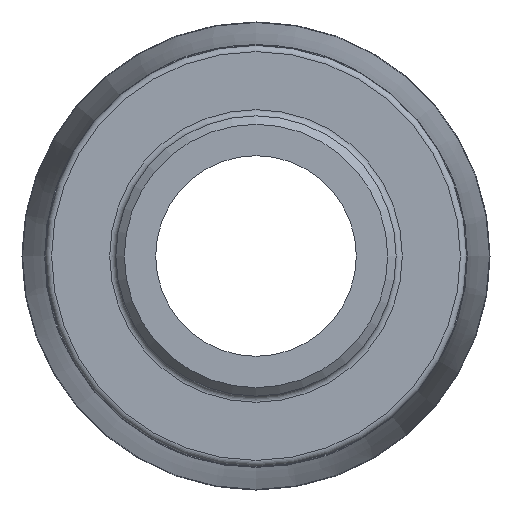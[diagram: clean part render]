
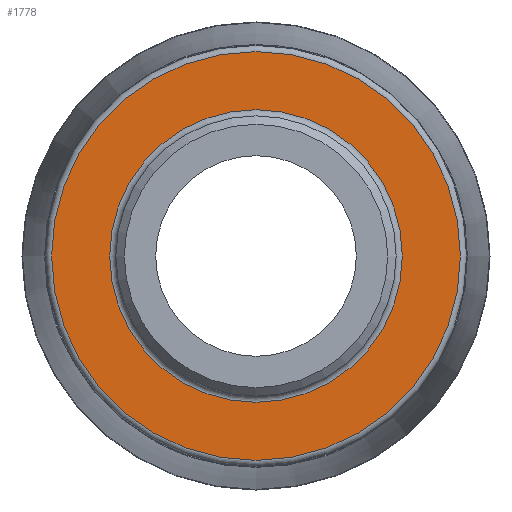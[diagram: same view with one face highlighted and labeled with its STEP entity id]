
A CAD part, left-side view. The second image highlights one B-rep face of the part: STEP entity #1778.
In plain terms, the highlighted planar face has unit normal (-1, 0, 0).
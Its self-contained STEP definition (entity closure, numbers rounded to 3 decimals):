
#93=FACE_BOUND('',#322,.T.);
#105=PLANE('',#1973);
#219=FACE_OUTER_BOUND('',#321,.T.);
#321=EDGE_LOOP('',(#1336,#1337));
#322=EDGE_LOOP('',(#1338,#1339));
#639=CIRCLE('',#1971,21.88);
#640=CIRCLE('',#1972,21.88);
#641=CIRCLE('',#1974,30.575);
#642=CIRCLE('',#1975,30.575);
#770=VERTEX_POINT('',#3154);
#771=VERTEX_POINT('',#3156);
#772=VERTEX_POINT('',#3160);
#773=VERTEX_POINT('',#3161);
#976=EDGE_CURVE('',#770,#771,#639,.T.);
#977=EDGE_CURVE('',#771,#770,#640,.T.);
#978=EDGE_CURVE('',#772,#773,#641,.T.);
#979=EDGE_CURVE('',#773,#772,#642,.T.);
#1336=ORIENTED_EDGE('',*,*,#978,.F.);
#1337=ORIENTED_EDGE('',*,*,#979,.F.);
#1338=ORIENTED_EDGE('',*,*,#977,.F.);
#1339=ORIENTED_EDGE('',*,*,#976,.F.);
#1778=ADVANCED_FACE('',(#219,#93),#105,.T.);
#1971=AXIS2_PLACEMENT_3D('',#3157,#2313,#2314);
#1972=AXIS2_PLACEMENT_3D('',#3158,#2315,#2316);
#1973=AXIS2_PLACEMENT_3D('',#3159,#2317,#2318);
#1974=AXIS2_PLACEMENT_3D('',#3162,#2319,#2320);
#1975=AXIS2_PLACEMENT_3D('',#3163,#2321,#2322);
#2313=DIRECTION('center_axis',(-1.,0.,0.));
#2314=DIRECTION('ref_axis',(0.,-1.,0.));
#2315=DIRECTION('center_axis',(-1.,0.,0.));
#2316=DIRECTION('ref_axis',(0.,-1.,0.));
#2317=DIRECTION('center_axis',(-1.,0.,0.));
#2318=DIRECTION('ref_axis',(0.,0.,1.));
#2319=DIRECTION('center_axis',(1.,0.,0.));
#2320=DIRECTION('ref_axis',(0.,-1.,0.));
#2321=DIRECTION('center_axis',(1.,0.,0.));
#2322=DIRECTION('ref_axis',(0.,-1.,0.));
#3154=CARTESIAN_POINT('',(21.,0.,21.88));
#3156=CARTESIAN_POINT('',(21.,21.88,0.));
#3157=CARTESIAN_POINT('Origin',(21.,0.,0.));
#3158=CARTESIAN_POINT('Origin',(21.,0.,0.));
#3159=CARTESIAN_POINT('Origin',(21.,31.5,0.));
#3160=CARTESIAN_POINT('',(21.,30.575,0.));
#3161=CARTESIAN_POINT('',(21.,0.,30.575));
#3162=CARTESIAN_POINT('Origin',(21.,0.,0.));
#3163=CARTESIAN_POINT('Origin',(21.,0.,0.));
